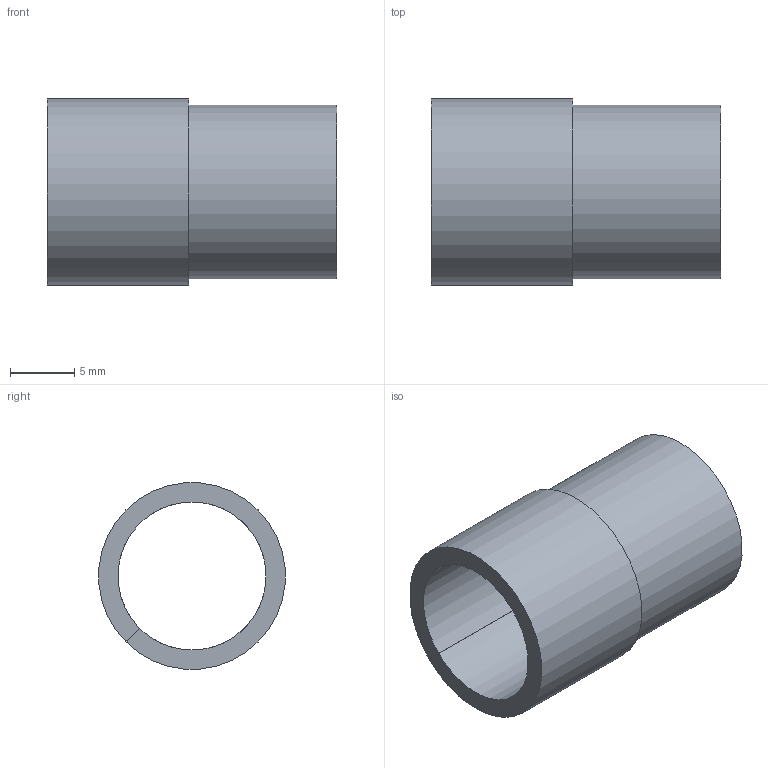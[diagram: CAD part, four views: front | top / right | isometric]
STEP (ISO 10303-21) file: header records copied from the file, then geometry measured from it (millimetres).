
FILE_DESCRIPTION(('Creo Elements/Direct Modeling STEP Export'),'2;1');
FILE_NAME('H23-0002-CL963-00_G11-11RS.stp','2023-10-03T14:37:58',(''),(''),'Creo Elements/Direct Modeling STEP processor for AP214 (Solid Model)','Creo Elements/Direct Modeling 20.3B 05-Dec-2020 (C) Parametric Technology GmbH','');
FILE_SCHEMA(('AUTOMOTIVE_DESIGN { 1 0 10303 214 1 1 1 1 }'));
Length unit declared in the file: millimetre
Products named in the file (2): H23-0002-CL963-00_G11-11RS
Assembly tree (1 placements, depth 2):
  H23-0002-CL963-00_G11-11RS
    H23-0002-CL963-00_G11-11RS
Bounding box: 22.5 x 14.45 x 14.45 mm (x, y, z)
Volume: 1124.5 mm3; surface area: 1975.1 mm2
Topology: 1 solids, 1 shells, 11 faces, 27 edges, 18 vertices
Faces by surface type: plane 5, cylinder 3, torus 3
Entity records: 381 total; most frequent: CARTESIAN_POINT 78, DIRECTION 56, ORIENTED_EDGE 54, EDGE_CURVE 27, AXIS2_PLACEMENT_3D 22, VERTEX_POINT 18, VECTOR 12, LINE 12
